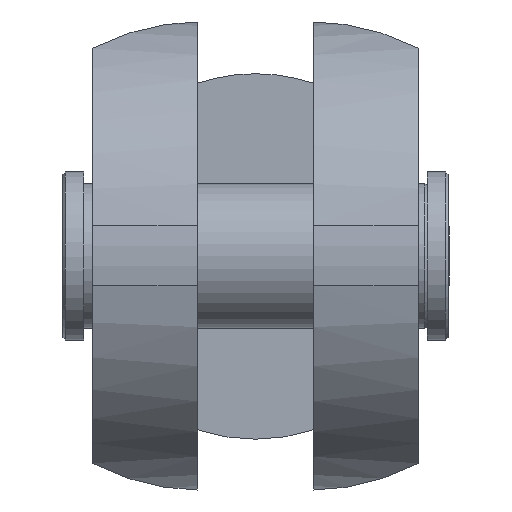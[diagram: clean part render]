
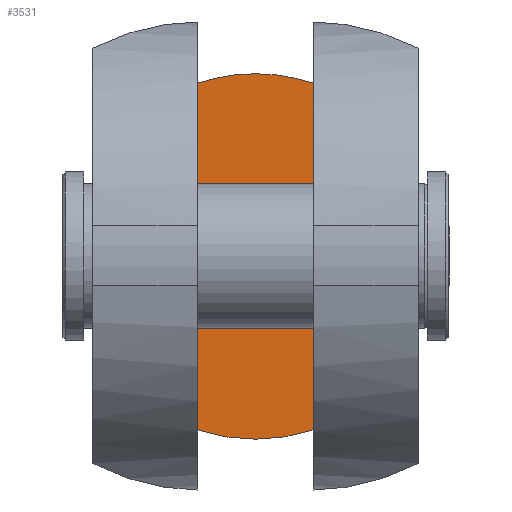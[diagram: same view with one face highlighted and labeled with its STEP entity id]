
A CAD part, top view. The second image highlights one B-rep face of the part: STEP entity #3531.
In plain terms, the highlighted planar face has unit normal (0, 0, 1).
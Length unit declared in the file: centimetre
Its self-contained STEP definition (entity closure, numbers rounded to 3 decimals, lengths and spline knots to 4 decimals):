
#372=LINE('',#5747,#720);
#373=LINE('',#5749,#721);
#720=VECTOR('',#4451,13.402);
#721=VECTOR('',#4454,13.402);
#928=PLANE('',#3733);
#1151=FACE_OUTER_BOUND('',#1369,.T.);
#1369=EDGE_LOOP('',(#3067,#3068,#3069,#3070));
#1437=CIRCLE('',#3587,7.0687);
#1438=CIRCLE('',#3588,7.0687);
#1490=VERTEX_POINT('',#4625);
#1491=VERTEX_POINT('',#4629);
#1496=VERTEX_POINT('',#4661);
#1497=VERTEX_POINT('',#4665);
#1806=EDGE_CURVE('',#1490,#1491,#1437,.T.);
#1812=EDGE_CURVE('',#1496,#1497,#1438,.T.);
#2207=EDGE_CURVE('',#1497,#1490,#372,.T.);
#2208=EDGE_CURVE('',#1496,#1491,#373,.T.);
#3067=ORIENTED_EDGE('',*,*,#1812,.F.);
#3068=ORIENTED_EDGE('',*,*,#2208,.T.);
#3069=ORIENTED_EDGE('',*,*,#1806,.F.);
#3070=ORIENTED_EDGE('',*,*,#2207,.F.);
#3531=ADVANCED_FACE('',(#1151),#928,.F.);
#3587=AXIS2_PLACEMENT_3D('',#4630,#3825,#3826);
#3588=AXIS2_PLACEMENT_3D('',#4666,#3827,#3828);
#3733=AXIS2_PLACEMENT_3D('',#5748,#4452,#4453);
#3825=DIRECTION('center_axis',(0.,0.,
-1.));
#3826=DIRECTION('ref_axis',(0.,1.,0.));
#3827=DIRECTION('center_axis',(0.,0.,
-1.));
#3828=DIRECTION('ref_axis',(0.,1.,0.));
#4451=DIRECTION('',(0.,-1.,0.));
#4452=DIRECTION('center_axis',(0.,0.,
-1.));
#4453=DIRECTION('ref_axis',(1.,0.,0.));
#4454=DIRECTION('',(0.,-1.,0.));
#4625=CARTESIAN_POINT('',(2.25,-6.701,-11.1));
#4629=CARTESIAN_POINT('',(-2.25,-6.701,-11.1));
#4630=CARTESIAN_POINT('Origin',(0.,0.,
-11.1));
#4661=CARTESIAN_POINT('',(-2.25,6.701,-11.1));
#4665=CARTESIAN_POINT('',(2.25,6.701,-11.1));
#4666=CARTESIAN_POINT('Origin',(0.,0.,
-11.1));
#5747=CARTESIAN_POINT('',(2.25,0.,-11.1));
#5748=CARTESIAN_POINT('Origin',(-2.25,0.,-11.1));
#5749=CARTESIAN_POINT('',(-2.25,0.,-11.1));
